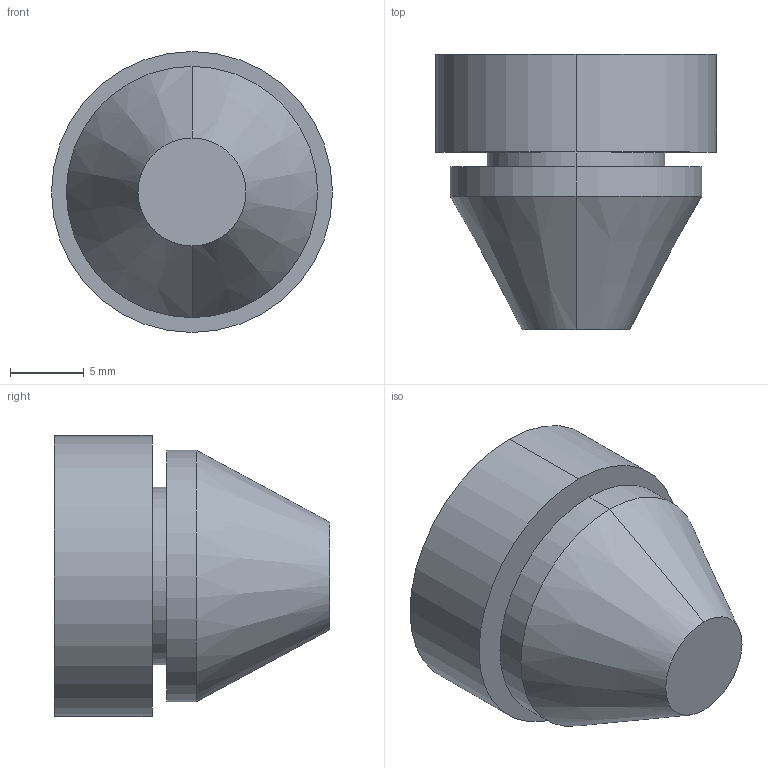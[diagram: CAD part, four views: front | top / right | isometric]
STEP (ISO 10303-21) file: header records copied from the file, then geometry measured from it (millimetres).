
FILE_DESCRIPTION (( 'STEP AP203' ), '1' );
FILE_NAME ('100589.STEP', '2012-10-25T06:08:03', ( 'Joni' ), ( 'Hewlett-Packard Company' ), 'SwSTEP 2.0', 'SolidWorks 2012', '' );
FILE_SCHEMA (( 'CONFIG_CONTROL_DESIGN' ));
Length unit declared in the file: millimetre
Products named in the file (1): 100589
Bounding box: 19 x 18.6 x 19 mm (x, y, z)
Volume: 3536.5 mm3; surface area: 1538.2 mm2
Topology: 1 solids, 1 shells, 12 faces, 22 edges, 14 vertices
Faces by surface type: cylinder 6, plane 4, cone 2
Entity records: 381 total; most frequent: DIRECTION 62, CARTESIAN_POINT 49, ORIENTED_EDGE 44, AXIS2_PLACEMENT_3D 27, EDGE_CURVE 22, EDGE_LOOP 14, CIRCLE 14, VERTEX_POINT 14
